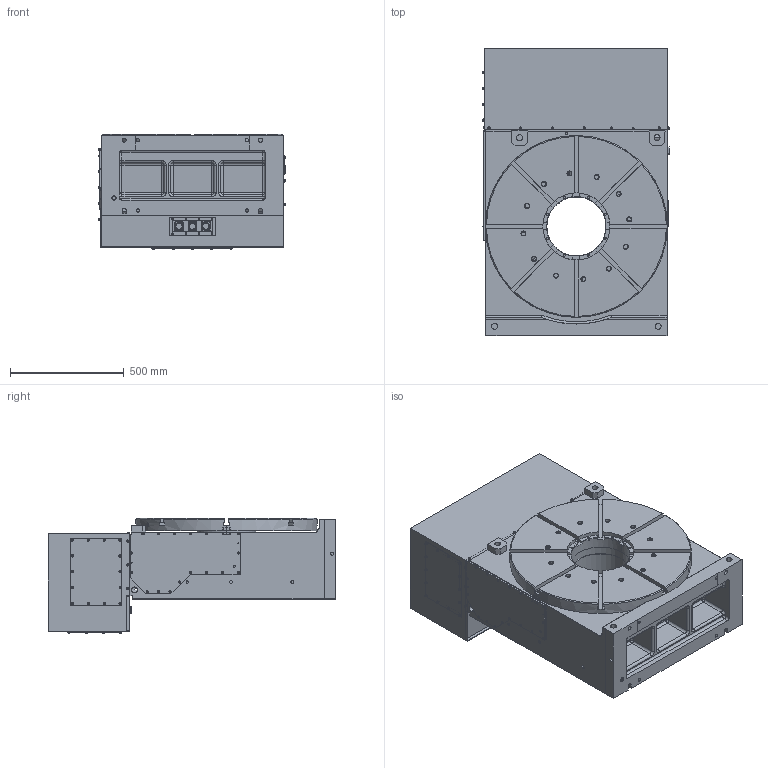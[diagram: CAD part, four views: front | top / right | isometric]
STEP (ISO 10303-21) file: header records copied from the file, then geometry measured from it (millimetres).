
FILE_DESCRIPTION (( 'STEP AP203' ), '1' );
FILE_NAME ('1532134-MDU802R-01.STEP', '2020-12-05T05:25:51', ( '' ), ( '' ), 'SwSTEP 2.0', 'SolidWorks 2019', '' );
FILE_SCHEMA (( 'CONFIG_CONTROL_DESIGN' ));
Length unit declared in the file: millimetre
Products named in the file (1): 1532134-MDU802R-01
Bounding box: 821.9 x 1263.5 x 507 mm (x, y, z)
Surface area: 5650052.4 mm2 (no closed solid volume)
Topology: 0 solids, 143 shells, 1425 faces, 4569 edges, 3224 vertices
Faces by surface type: cylinder 708, plane 444, cone 192, sphere 51, torus 30
Entity records: 52058 total; most frequent: CARTESIAN_POINT 10389, DIRECTION 9518, ORIENTED_EDGE 7191, EDGE_CURVE 4524, AXIS2_PLACEMENT_3D 3686, VERTEX_POINT 3217, CIRCLE 2260, VECTOR 2146
